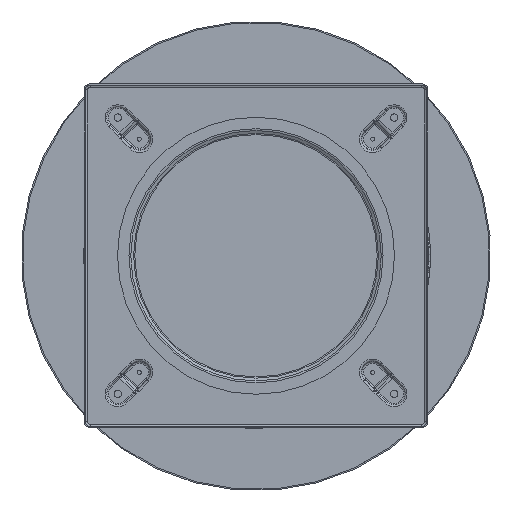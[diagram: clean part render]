
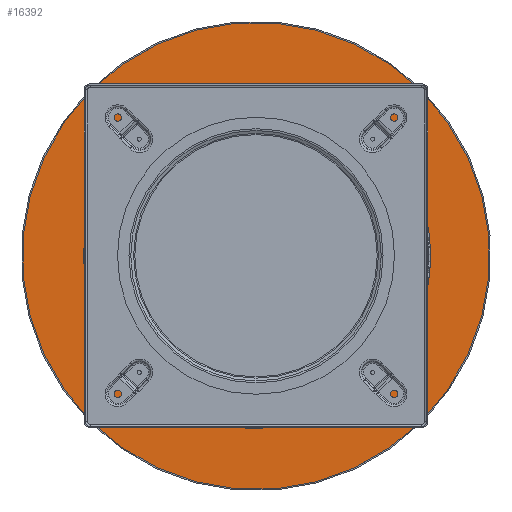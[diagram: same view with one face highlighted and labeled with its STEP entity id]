
A CAD part, top view. The second image highlights one B-rep face of the part: STEP entity #16392.
In plain terms, the highlighted conical face has half-angle 89.989 degrees and reference radius 382.5 mm.
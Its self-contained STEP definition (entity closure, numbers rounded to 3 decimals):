
#57=CONICAL_SURFACE('',#17357,382.5,1.571);
#1421=LINE('',#35837,#2228);
#2228=VECTOR('',#19793,382.5);
#4122=FACE_OUTER_BOUND('',#5061,.T.);
#5061=EDGE_LOOP('',(#13231,#13232,#13233,#13234,#13235,#13236));
#5386=CIRCLE('',#16718,281.);
#5391=CIRCLE('',#16723,281.);
#5532=CIRCLE('',#17358,380.499);
#5533=CIRCLE('',#17359,380.499);
#5815=VERTEX_POINT('',#21153);
#5816=VERTEX_POINT('',#21154);
#6963=VERTEX_POINT('',#35836);
#6964=VERTEX_POINT('',#35838);
#7379=EDGE_CURVE('',#5815,#5816,#5386,.T.);
#7393=EDGE_CURVE('',#5816,#5815,#5391,.T.);
#9101=EDGE_CURVE('',#5816,#6963,#1421,.T.);
#9102=EDGE_CURVE('',#6964,#6963,#5532,.T.);
#9103=EDGE_CURVE('',#6963,#6964,#5533,.T.);
#13231=ORIENTED_EDGE('',*,*,#7379,.T.);
#13232=ORIENTED_EDGE('',*,*,#9101,.T.);
#13233=ORIENTED_EDGE('',*,*,#9102,.F.);
#13234=ORIENTED_EDGE('',*,*,#9103,.F.);
#13235=ORIENTED_EDGE('',*,*,#9101,.F.);
#13236=ORIENTED_EDGE('',*,*,#7393,.T.);
#16392=ADVANCED_FACE('',(#4122),#57,.T.);
#16718=AXIS2_PLACEMENT_3D('',#21155,#17897,#17898);
#16723=AXIS2_PLACEMENT_3D('',#21217,#17908,#17909);
#17357=AXIS2_PLACEMENT_3D('',#35835,#19791,#19792);
#17358=AXIS2_PLACEMENT_3D('',#35839,#19794,#19795);
#17359=AXIS2_PLACEMENT_3D('',#35840,#19796,#19797);
#17897=DIRECTION('center_axis',(0.,0.,
-1.));
#17898=DIRECTION('ref_axis',(1.,0.,0.));
#17908=DIRECTION('center_axis',(0.,0.,
-1.));
#17909=DIRECTION('ref_axis',(1.,0.,0.));
#19791=DIRECTION('center_axis',(0.,0.,
-1.));
#19792=DIRECTION('ref_axis',(0.707,-0.707,0.));
#19793=DIRECTION('',(-0.707,0.707,0.));
#19794=DIRECTION('center_axis',(0.,0.,
-1.));
#19795=DIRECTION('ref_axis',(0.707,-0.707,0.));
#19796=DIRECTION('center_axis',(0.,0.,
-1.));
#19797=DIRECTION('ref_axis',(0.707,-0.707,0.));
#21153=CARTESIAN_POINT('',(-893.059,303.067,-263.076));
#21154=CARTESIAN_POINT('',(-810.656,501.864,-263.076));
#21155=CARTESIAN_POINT('Origin',(-612.059,303.067,-263.076));
#21217=CARTESIAN_POINT('Origin',(-612.059,303.067,-263.076));
#35835=CARTESIAN_POINT('Origin',(-612.059,303.067,-263.094));
#35836=CARTESIAN_POINT('',(-880.977,572.256,-263.094));
#35837=CARTESIAN_POINT('',(-882.391,573.672,-263.094));
#35838=CARTESIAN_POINT('',(-881.248,34.15,-263.094));
#35839=CARTESIAN_POINT('Origin',(-612.059,303.067,-263.094));
#35840=CARTESIAN_POINT('Origin',(-612.059,303.067,-263.094));
